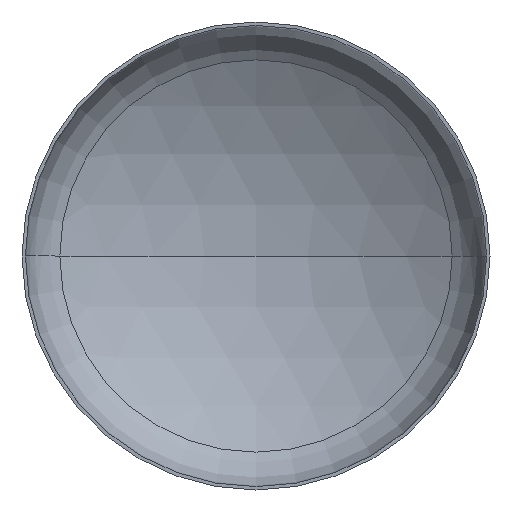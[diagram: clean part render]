
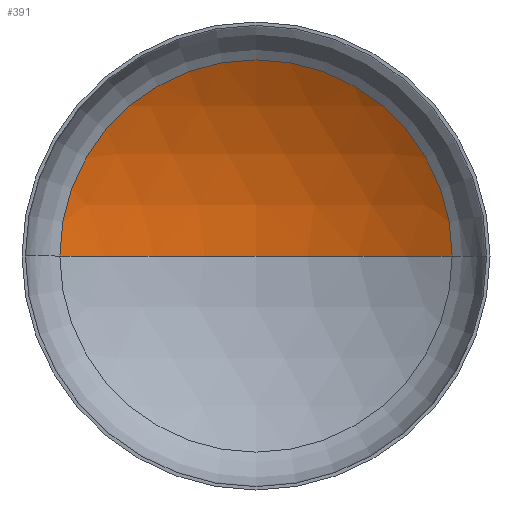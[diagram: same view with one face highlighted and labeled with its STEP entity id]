
A CAD part, front view. The second image highlights one B-rep face of the part: STEP entity #391.
In plain terms, the highlighted spherical face has radius 880 mm.
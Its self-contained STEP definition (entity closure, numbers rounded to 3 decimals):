
#21 = VERTEX_POINT ( 'NONE', #298 ) ;
#22 = AXIS2_PLACEMENT_3D ( 'NONE', #357, #331, #133 ) ;
#23 = AXIS2_PLACEMENT_3D ( 'NONE', #363, #178, #176 ) ;
#35 = AXIS2_PLACEMENT_3D ( 'NONE', #222, #384, #240 ) ;
#75 = VERTEX_POINT ( 'NONE', #371 ) ;
#105 = ORIENTED_EDGE ( 'NONE', *, *, #326, .T. ) ;
#109 = AXIS2_PLACEMENT_3D ( 'NONE', #272, #241, #194 ) ;
#117 = VERTEX_POINT ( 'NONE', #333 ) ;
#127 = ORIENTED_EDGE ( 'NONE', *, *, #338, .F. ) ;
#133 = DIRECTION ( 'NONE',  ( 1., 0., 0. ) ) ;
#139 = CIRCLE ( 'NONE', #23, 880. ) ;
#141 = EDGE_LOOP ( 'NONE', ( #127, #265, #105 ) ) ;
#176 = DIRECTION ( 'NONE',  ( -1., 0., 0. ) ) ;
#178 = DIRECTION ( 'NONE',  ( 0., 0., -1. ) ) ;
#194 = DIRECTION ( 'NONE',  ( -1., 0., 0. ) ) ;
#222 = CARTESIAN_POINT ( 'NONE',  ( 0., 169.798, 0. ) ) ;
#240 = DIRECTION ( 'NONE',  ( 1., 0., 0. ) ) ;
#241 = DIRECTION ( 'NONE',  ( 0., 0., -1. ) ) ;
#265 = ORIENTED_EDGE ( 'NONE', *, *, #330, .T. ) ;
#269 = CIRCLE ( 'NONE', #22, 880. ) ;
#272 = CARTESIAN_POINT ( 'NONE',  ( 0., -579.745, 0. ) ) ;
#276 = CIRCLE ( 'NONE', #35, 461.07 ) ;
#298 = CARTESIAN_POINT ( 'NONE',  ( 461.07, 169.798, 0. ) ) ;
#301 = SPHERICAL_SURFACE ( 'NONE', #109, 880. ) ;
#326 = EDGE_CURVE ( 'NONE', #21, #75, #276, .T. ) ;
#330 = EDGE_CURVE ( 'NONE', #117, #21, #139, .T. ) ;
#331 = DIRECTION ( 'NONE',  ( 0., 0., 1. ) ) ;
#333 = CARTESIAN_POINT ( 'NONE',  ( 0., 300.255, 0. ) ) ;
#338 = EDGE_CURVE ( 'NONE', #117, #75, #269, .T. ) ;
#357 = CARTESIAN_POINT ( 'NONE',  ( 0., -579.745, 0. ) ) ;
#363 = CARTESIAN_POINT ( 'NONE',  ( 0., -579.745, 0. ) ) ;
#370 = FACE_OUTER_BOUND ( 'NONE', #141, .T. ) ;
#371 = CARTESIAN_POINT ( 'NONE',  ( -461.07, 169.798, 0. ) ) ;
#384 = DIRECTION ( 'NONE',  ( 0., -1., 0. ) ) ;
#391 = ADVANCED_FACE ( 'NONE', ( #370 ), #301, .F. ) ;
